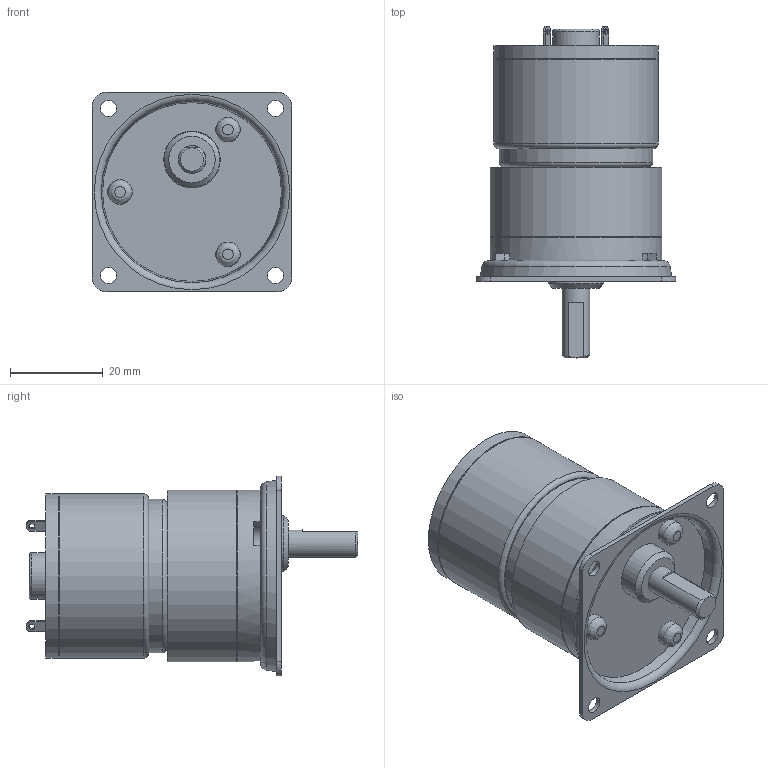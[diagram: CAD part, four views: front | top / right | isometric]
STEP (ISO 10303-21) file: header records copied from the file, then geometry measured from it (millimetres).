
FILE_DESCRIPTION((''),'2;1');
FILE_NAME('C:\Documents and Settings\SSEGAWA\デスクトップ\TP-3526A-PKS-2.STP','2013-07-09T14:39:13',('SSEGAWA'),(''),'Autodesk Inventor 2010','Autodesk Inventor 2010','');
FILE_SCHEMA(('CONFIG_CONTROL_DESIGN'));
Length unit declared in the file: millimetre
Products named in the file (5): tp_3526abcj_pks_2; pks_2; ks_2; □43; tp_3526a,b,c,j
Assembly tree (4 placements, depth 3):
  tp_3526abcj_pks_2
    pks_2
      ks_2
      □43
    tp_3526a,b,c,j
Bounding box: 43 x 71.5 x 43 mm (x, y, z)
Volume: 50052.6 mm3; surface area: 14994.2 mm2
Topology: 4 solids, 4 shells, 112 faces, 256 edges, 170 vertices
Faces by surface type: plane 47, cylinder 28, bspline 28, torus 5, cone 4
Full cylindrical faces by diameter (mm): 2 x1, 4 x1, 5.3 x3, 6 x1, 10 x2, 12 x1, 12.2 x1, 33 x1, 35 x1, 35.4 x2, 36.6 x1, 37 x2
Entity records: 3303 total; most frequent: CARTESIAN_POINT 1024, DIRECTION 465, ORIENTED_EDGE 348, AXIS2_PLACEMENT_3D 200, EDGE_LOOP 197, EDGE_CURVE 174, VERTEX_POINT 141, FACE_OUTER_BOUND 112
